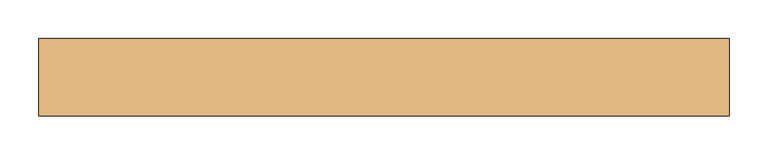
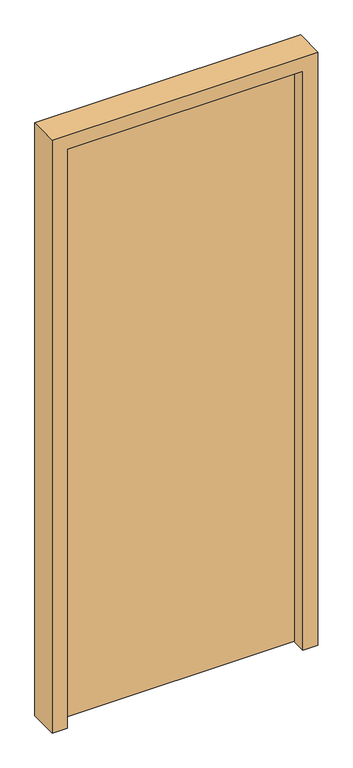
"""IFC4 building model written with IfcOpenShell, lengths in millimetres: door geometry, (Dr)_ДУ(распашная)_1Ст_Прямоугольная : (Нр)_ДГ(0.89х2.1(h))."""

from ifc_helpers import new_model, si_unit, frame, origin, origin_with_axes, place, context, project, spatial, polyline, outline, extrude, source, transform, mapped, element, save


def door_6cd90bed(model_context):
    return source(origin(), model_context, "Body", "SweptSolid", [
        extrude(outline(polyline([(-395.0, 60.0), (395.0, 60.0), (395.0, 10.0), (-395.0, 10.0), (-395.0, 60.0)])), origin_with_axes(), (0.0, 0.0, 1.0), 2050.0),
        extrude(outline(polyline([(0.0, -445.0), (0.0, -395.0), (2050.0, -395.0), (2050.0, 395.0), (0.0, 395.0), (0.0, 445.0), (2100.0, 445.0), (2100.0, -445.0), (0.0, -445.0)])), frame((0.0, -40.0, 0.0), z_axis=(0.0, 1.0, 0.0), x_axis=(0.0, 0.0, 1.0)), (0.0, 0.0, 1.0), 100.0),
    ])


if __name__ == "__main__":
    model = new_model("IFC4")
    model_context = context("Model", 3, world=origin())
    ifc_project = project(units=[si_unit("LENGTHUNIT", "METRE", prefix="MILLI")], contexts=[model_context])
    site = spatial("IfcSite", under=ifc_project)
    building = spatial("IfcBuilding", under=site)
    placement = place(None, origin())
    door_shape = door_6cd90bed(model_context)
    element("IfcDoor", 1, ObjectType="(Dr)_ДУ(распашная)_1Ст_Прямоугольная : (Нр)_ДГ(0.89х2.1(h))", at=placement, inside=building, context=model_context, shape_type="MappedRepresentation", body=[
        mapped(door_shape, transform((0.0, 0.0, 0.0), x_axis=(1.0, 0.0, 0.0), y_axis=(0.0, 1.0, 0.0), z_axis=(0.0, 0.0, 1.0))),
    ])
    save(model, "model.ifc")
